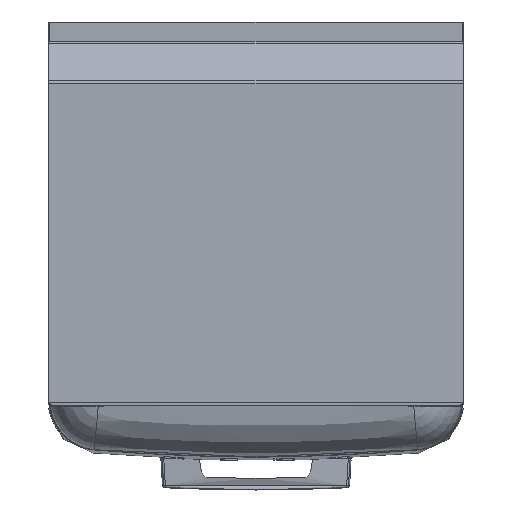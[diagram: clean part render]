
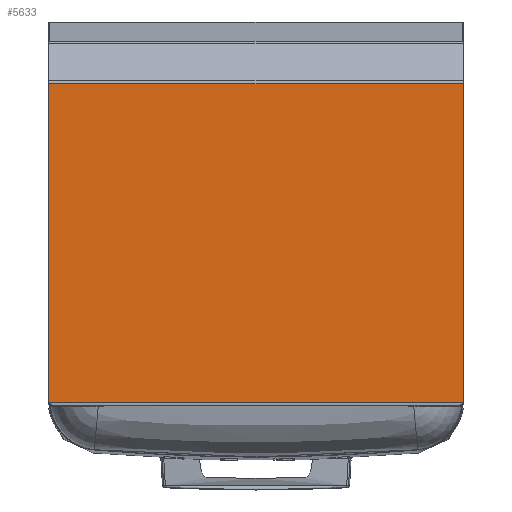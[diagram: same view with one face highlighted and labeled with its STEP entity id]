
A CAD part, front view. The second image highlights one B-rep face of the part: STEP entity #5633.
In plain terms, the highlighted planar face has unit normal (0, -1, 0).
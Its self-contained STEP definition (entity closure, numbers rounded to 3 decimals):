
#678 = VECTOR ( 'NONE', #3613, 1000. ) ;
#699 = CARTESIAN_POINT ( 'NONE',  ( 299., 0., 457.756 ) ) ;
#838 = LINE ( 'NONE', #699, #678 ) ;
#1080 = FACE_OUTER_BOUND ( 'NONE', #5708, .T. ) ;
#1135 = VECTOR ( 'NONE', #8713, 1000. ) ;
#2134 = ORIENTED_EDGE ( 'NONE', *, *, #7249, .T. ) ;
#2748 = EDGE_CURVE ( 'NONE', #12049, #9676, #8117, .T. ) ;
#2997 = CARTESIAN_POINT ( 'NONE',  ( -299., 0., -2.36 ) ) ;
#3307 = ORIENTED_EDGE ( 'NONE', *, *, #9180, .T. ) ;
#3613 = DIRECTION ( 'NONE',  ( -1., 0., 0. ) ) ;
#3686 = DIRECTION ( 'NONE',  ( 0., -1., 0. ) ) ;
#4070 = DIRECTION ( 'NONE',  ( 0., 0., 1. ) ) ;
#4087 = VERTEX_POINT ( 'NONE', #6932 ) ;
#4172 = AXIS2_PLACEMENT_3D ( 'NONE', #4605, #3686, #11430 ) ;
#4605 = CARTESIAN_POINT ( 'NONE',  ( 0., 0., 0. ) ) ;
#5332 = LINE ( 'NONE', #2997, #1135 ) ;
#5633 = ADVANCED_FACE ( 'NONE', ( #1080 ), #8423, .T. ) ;
#5708 = EDGE_LOOP ( 'NONE', ( #3307, #2134, #9644, #7570 ) ) ;
#6014 = CARTESIAN_POINT ( 'NONE',  ( 299., 0., -2.36 ) ) ;
#6910 = VERTEX_POINT ( 'NONE', #10965 ) ;
#6932 = CARTESIAN_POINT ( 'NONE',  ( -299., 0., 457.756 ) ) ;
#6983 = CARTESIAN_POINT ( 'NONE',  ( 299., 0., 457.756 ) ) ;
#7006 = CARTESIAN_POINT ( 'NONE',  ( -299., 0., 457.756 ) ) ;
#7089 = VECTOR ( 'NONE', #11737, 1000. ) ;
#7249 = EDGE_CURVE ( 'NONE', #4087, #6910, #10230, .T. ) ;
#7570 = ORIENTED_EDGE ( 'NONE', *, *, #2748, .T. ) ;
#8117 = LINE ( 'NONE', #6014, #9322 ) ;
#8423 = PLANE ( 'NONE',  #4172 ) ;
#8713 = DIRECTION ( 'NONE',  ( 1., 0., 0. ) ) ;
#8818 = CARTESIAN_POINT ( 'NONE',  ( 299., 0., -2.36 ) ) ;
#9180 = EDGE_CURVE ( 'NONE', #9676, #4087, #838, .T. ) ;
#9322 = VECTOR ( 'NONE', #4070, 1000. ) ;
#9644 = ORIENTED_EDGE ( 'NONE', *, *, #10443, .T. ) ;
#9676 = VERTEX_POINT ( 'NONE', #6983 ) ;
#10230 = LINE ( 'NONE', #7006, #7089 ) ;
#10443 = EDGE_CURVE ( 'NONE', #6910, #12049, #5332, .T. ) ;
#10965 = CARTESIAN_POINT ( 'NONE',  ( -299., 0., -2.36 ) ) ;
#11430 = DIRECTION ( 'NONE',  ( 0., 0., -1. ) ) ;
#11737 = DIRECTION ( 'NONE',  ( 0., 0., -1. ) ) ;
#12049 = VERTEX_POINT ( 'NONE', #8818 ) ;
